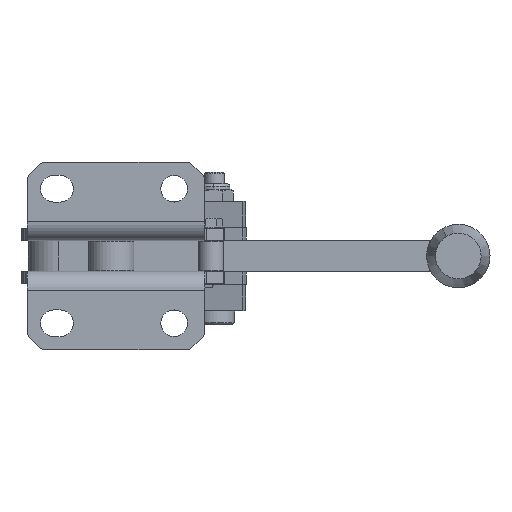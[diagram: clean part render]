
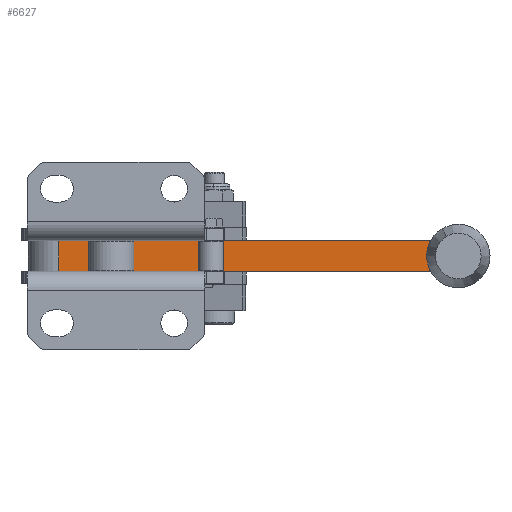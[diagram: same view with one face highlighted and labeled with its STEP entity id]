
A CAD part, front view. The second image highlights one B-rep face of the part: STEP entity #6627.
In plain terms, the highlighted planar face has unit normal (0, -1, 0).
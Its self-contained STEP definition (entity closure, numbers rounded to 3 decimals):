
#1327 = LINE ( 'NONE', #8462, #21889 ) ;
#2749 = VECTOR ( 'NONE', #32590, 1000. ) ;
#3232 = FACE_OUTER_BOUND ( 'NONE', #39473, .T. ) ;
#3464 = PLANE ( 'NONE',  #21333 ) ;
#4432 = VECTOR ( 'NONE', #23724, 1000. ) ;
#5208 = ORIENTED_EDGE ( 'NONE', *, *, #26740, .F. ) ;
#6627 = ADVANCED_FACE ( 'NONE', ( #3232 ), #3464, .F. ) ;
#6896 = VERTEX_POINT ( 'NONE', #22380 ) ;
#7230 = CARTESIAN_POINT ( 'NONE',  ( -148., -12., 6. ) ) ;
#8462 = CARTESIAN_POINT ( 'NONE',  ( -146., -12., 6. ) ) ;
#8921 = EDGE_CURVE ( 'NONE', #28319, #19031, #20591, .T. ) ;
#10006 = CARTESIAN_POINT ( 'NONE',  ( 0., -12., 6. ) ) ;
#10766 = VECTOR ( 'NONE', #30400, 1000. ) ;
#12863 = EDGE_CURVE ( 'NONE', #43009, #19031, #20150, .T. ) ;
#16343 = CARTESIAN_POINT ( 'NONE',  ( 0., -12., -6. ) ) ;
#16945 = ORIENTED_EDGE ( 'NONE', *, *, #25173, .F. ) ;
#17085 = DIRECTION ( 'NONE',  ( 0., 1., 0. ) ) ;
#19031 = VERTEX_POINT ( 'NONE', #16343 ) ;
#20150 = LINE ( 'NONE', #37331, #10766 ) ;
#20591 = LINE ( 'NONE', #38190, #4432 ) ;
#21333 = AXIS2_PLACEMENT_3D ( 'NONE', #7230, #17085, #31310 ) ;
#21889 = VECTOR ( 'NONE', #35674, 1000. ) ;
#22380 = CARTESIAN_POINT ( 'NONE',  ( -146., -12., 6. ) ) ;
#22994 = CARTESIAN_POINT ( 'NONE',  ( 0., -12., 6. ) ) ;
#23724 = DIRECTION ( 'NONE',  ( 0., 0., -1. ) ) ;
#25173 = EDGE_CURVE ( 'NONE', #43009, #6896, #1327, .T. ) ;
#26371 = ORIENTED_EDGE ( 'NONE', *, *, #8921, .F. ) ;
#26740 = EDGE_CURVE ( 'NONE', #6896, #28319, #33244, .T. ) ;
#28319 = VERTEX_POINT ( 'NONE', #10006 ) ;
#30400 = DIRECTION ( 'NONE',  ( 1., 0., 0. ) ) ;
#31310 = DIRECTION ( 'NONE',  ( 0., 0., 1. ) ) ;
#32590 = DIRECTION ( 'NONE',  ( 1., 0., 0. ) ) ;
#33244 = LINE ( 'NONE', #22994, #2749 ) ;
#35601 = ORIENTED_EDGE ( 'NONE', *, *, #12863, .T. ) ;
#35674 = DIRECTION ( 'NONE',  ( 0., 0., 1. ) ) ;
#36661 = CARTESIAN_POINT ( 'NONE',  ( -146., -12., -6. ) ) ;
#37331 = CARTESIAN_POINT ( 'NONE',  ( -148., -12., -6. ) ) ;
#38190 = CARTESIAN_POINT ( 'NONE',  ( 0., -12., 6. ) ) ;
#39473 = EDGE_LOOP ( 'NONE', ( #16945, #35601, #26371, #5208 ) ) ;
#43009 = VERTEX_POINT ( 'NONE', #36661 ) ;
